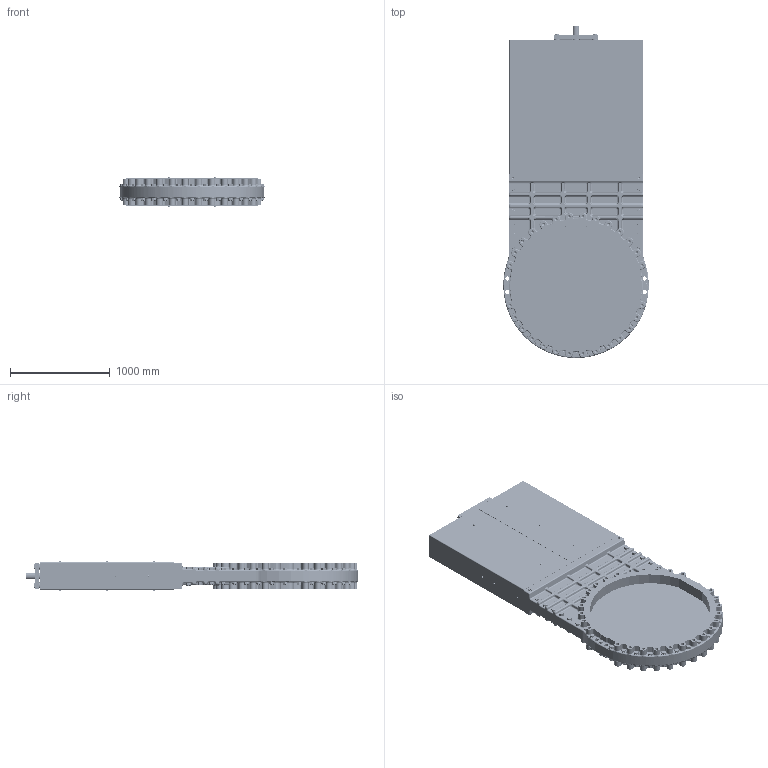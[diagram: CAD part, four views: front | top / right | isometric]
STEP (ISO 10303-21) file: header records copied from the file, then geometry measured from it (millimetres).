
FILE_DESCRIPTION(/* description */ (''),/* implementation_level */ '2;1');
FILE_NAME(/* name */ '明杆刀阀带上法兰 DN1200简图.stp',/* time_stamp */ '2025-12-21T13:17:36+08:00',/* author */ (''),/* organization */ (''),/* preprocessor_version */ 'ST-DEVELOPER v15',/* originating_system */ 'SIEMENS PLM Software NX 10.0',/* authorisation */ '');
FILE_SCHEMA (('AP203_CONFIGURATION_CONTROLLED_3D_DESIGN_OF_MECHANICAL_PARTS_AND_ASSEMBLIES_MIM_LF { 1 0 10303 403 2 1 2}'));
Products named in the file (1): 36A882E2gouq
Bounding box: 1454.68 x 3322.39 x 291.8 mm (x, y, z)
Volume: 299632874.5 mm3; surface area: 22945924 mm2
Topology: 1 solids, 60 shells, 5526 faces, 12708 edges, 7948 vertices
Faces by surface type: plane 2382, cylinder 1772, cone 680, bspline 456, torus 216, sphere 20
Full cylindrical faces by diameter (mm): 2.4 x4, 6.24 x1, 7.323 x16, 8 x32, 8.4 x16, 9.188 x12, 10 x24, 10.5 x12, 11.4 x16, 13 x6, 15.4 x12, 15.5 x28, 16 x72, 17 x28, 18 x28, 20 x12, 22 x41, 22.863 x4, 24 x6, 25.2 x4, 26 x4, 27 x86, 27.6 x2, 28 x66, 29 x49, 30 x31, 32 x56, 32.4 x4, 40 x2, 42 x4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
Entity records: 184458 total; most frequent: CARTESIAN_POINT 48307, DIRECTION 24120, ORIENTED_EDGE 21664, EDGE_CURVE 10832, AXIS2_PLACEMENT_3D 10189, EDGE_LOOP 7689, VERTEX_POINT 7432, ADVANCED_FACE 5526
